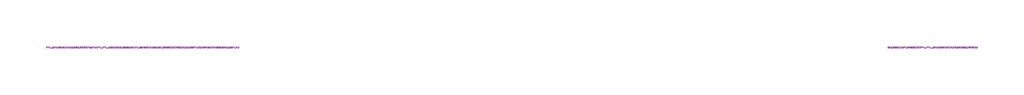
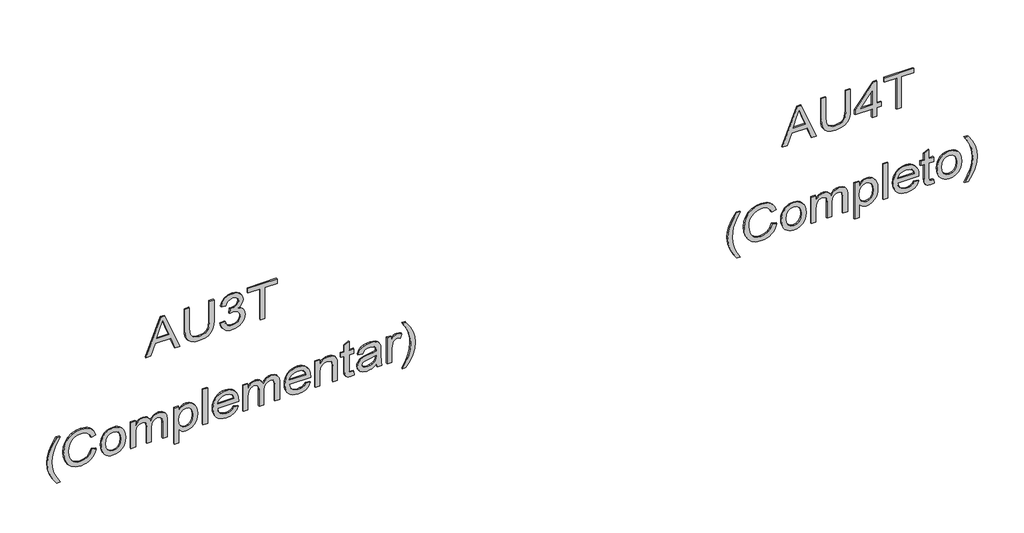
# One storey, part 4 of 14: 2 proxies.
"""IFC4 building model written with IfcOpenShell, lengths in millimetres."""

import ifcopenshell
import ifcopenshell.guid

model = None  # the IFC model being written
_history = None  # IfcOwnerHistory: only IFC2X3 demands one
_inside = {}  # id of a spatial element -> (the spatial element, [elements in it])
_under = {}  # id of a project, library or spatial element -> (it, [spatial elements below it])
_declared = {}  # id of a project -> (the project, [libraries it declares])
_typed = {}  # id of a type object -> (the type object, [elements of that type])
_made_of = {}  # id of a material, layer set ... -> (it, [elements and type objects made of it])


def new_model(schema):
    """Start an empty IFC model of exactly this schema.

    Asked for "IFC4X3", IfcOpenShell would pick the latest addendum, in which some entities
    have other attributes; the version numbers below select the first issue.
    IFC2X3 requires an IfcOwnerHistory on every rooted entity: one is made here for all.
    """
    global model, _history
    if schema == "IFC4X3":
        model = ifcopenshell.file(schema_version=(4, 3, 0, 0))
    else:
        model = ifcopenshell.file(schema=schema)
    _inside.clear()
    _under.clear()
    _declared.clear()
    _typed.clear()
    _made_of.clear()
    _history = None
    if model.schema == "IFC2X3":
        org = make("IfcOrganization", Name="unknown")
        user = make(
            "IfcPersonAndOrganization",
            ThePerson=make("IfcPerson", FamilyName="unknown"),
            TheOrganization=org,
        )
        app = make(
            "IfcApplication",
            ApplicationDeveloper=org,
            Version="unknown",
            ApplicationFullName="unknown",
            ApplicationIdentifier="unknown",
        )
        _history = make(
            "IfcOwnerHistory",
            OwningUser=user,
            OwningApplication=app,
            ChangeAction="ADDED",
            CreationDate=0,
        )
    return model


def make(cls, **values):
    """One entity of the class cls with the attributes given. An attribute that is None is left unset."""
    return model.create_entity(
        cls, **{name: value for name, value in values.items() if value is not None}
    )


def rooted(cls, **values):
    """An entity with a GlobalId (a new one), such as an element, a storey or a relation."""
    return make(cls, GlobalId=ifcopenshell.guid.new(), OwnerHistory=_history, **values)


def si_unit(unit_type, name, prefix=None):
    """IfcSIUnit, for example si_unit("LENGTHUNIT", "METRE", prefix="MILLI")."""
    return make("IfcSIUnit", UnitType=unit_type, Prefix=prefix, Name=name)


def assignment(units):
    """IfcUnitAssignment: the units of a project."""
    return None if units is None else make("IfcUnitAssignment", Units=units)


def point(xyz):
    """IfcCartesianPoint."""
    return None if xyz is None else make("IfcCartesianPoint", Coordinates=xyz)


def direction(xyz):
    """IfcDirection."""
    return None if xyz is None else make("IfcDirection", DirectionRatios=xyz)


def frame(location, z_axis=None, x_axis=None):
    """IfcAxis2Placement3D, a coordinate frame: its origin and axes. An axis left out is left unset."""
    return make(
        "IfcAxis2Placement3D",
        Location=point(location),
        Axis=direction(z_axis),
        RefDirection=direction(x_axis),
    )


def origin():
    """The frame at (0, 0, 0) with its axes left unset."""
    return frame((0.0, 0.0, 0.0))


def place(relative_to, where):
    """IfcLocalPlacement: puts the frame where relative to a parent placement (None: the world)."""
    return make(
        "IfcLocalPlacement", PlacementRelTo=relative_to, RelativePlacement=where
    )


def context(
    kind, dimensions, precision=None, world=None, true_north=None, identifier=None
):
    """IfcGeometricRepresentationContext, for example the 3D "Model" context."""
    return make(
        "IfcGeometricRepresentationContext",
        ContextIdentifier=identifier,
        ContextType=kind,
        CoordinateSpaceDimension=dimensions,
        Precision=precision,
        WorldCoordinateSystem=world,
        TrueNorth=true_north,
    )


def project(units=None, contexts=None):
    """IfcProject with its units and contexts."""
    return rooted(
        "IfcProject",
        Name="project",
        RepresentationContexts=contexts,
        UnitsInContext=assignment(units),
    )


def spatial(cls, under=None, at=None, **own):
    """A site, building, storey or space (cls), placed at a placement, below another one or the project."""
    s = rooted(cls, ObjectPlacement=at, **own)
    if under is not None:
        _under.setdefault(under.id(), (under, []))[1].append(s)
    return s


def polyline(points):
    """IfcPolyline through the points."""
    return make("IfcPolyline", Points=[point(p) for p in points])


def outline(outer, holes=None, kind="AREA"):
    """IfcArbitraryClosedProfileDef: a profile drawn as a closed curve; with holes, ...WithVoids."""
    if holes is None:
        return make("IfcArbitraryClosedProfileDef", ProfileType=kind, OuterCurve=outer)
    return make(
        "IfcArbitraryProfileDefWithVoids",
        ProfileType=kind,
        OuterCurve=outer,
        InnerCurves=holes,
    )


def extrude(swept, where, along, depth):
    """IfcExtrudedAreaSolid: the profile swept, set in the frame where, extruded along a direction by depth."""
    return make(
        "IfcExtrudedAreaSolid",
        SweptArea=swept,
        Position=where,
        ExtrudedDirection=direction(along),
        Depth=depth,
    )


def shape(context_of_items, identifier, shape_type, items):
    """IfcShapeRepresentation: the items that make up one representation, for example the "Body"."""
    return make(
        "IfcShapeRepresentation",
        ContextOfItems=context_of_items,
        RepresentationIdentifier=identifier,
        RepresentationType=shape_type,
        Items=items,
    )


def made_of(thing, what):
    """Note that an element or type object is made of a material, layer set ...; save() writes the relation."""
    if what is not None:
        _made_of.setdefault(what.id(), (what, []))[1].append(thing)
    return thing


def element(
    cls,
    number,
    at=None,
    inside=None,
    cuts=None,
    type_object=None,
    material=None,
    context=None,
    identifier="Body",
    shape_type=None,
    held_by="IfcProductDefinitionShape",
    body=None,
    shapes=None,
    **own,
):
    """One element of the class cls, such as IfcWall. Its Tag is "e" and its number.

    at: its placement. inside: the storey or other place that contains it. cuts: it is an
    opening in that element (IfcRelVoidsElement). A single representation is given by context,
    identifier, shape_type and body (its items); several are given by shapes. held_by: the class
    of the entity that holds the representations. save() writes the other relations.
    """
    e = rooted(cls, Tag="e%d" % number, ObjectPlacement=at, **own)
    if body is not None:
        shapes = [shape(context, identifier, shape_type, body)]
    if shapes is not None:
        e.Representation = make(held_by, Representations=shapes)
    if inside is not None:
        _inside.setdefault(inside.id(), (inside, []))[1].append(e)
    if cuts is not None:
        rooted(
            "IfcRelVoidsElement", RelatingBuildingElement=cuts, RelatedOpeningElement=e
        )
    if type_object is not None:
        _typed.setdefault(type_object.id(), (type_object, []))[1].append(e)
    return made_of(e, material)


def aggregate(whole, parts):
    """IfcRelAggregates: a whole, such as a stair, and the parts it consists of."""
    return rooted("IfcRelAggregates", RelatingObject=whole, RelatedObjects=parts)


def save(model, path):
    """Write the relations noted so far, then the file.

    IfcRelAggregates (storeys below a building ...), IfcRelContainedInSpatialStructure (elements
    in a storey), IfcRelDefinesByType, IfcRelAssociatesMaterial and IfcRelDeclares: one each for
    every whole, place, type object, material and project.
    """
    for whole, parts in _under.values():
        aggregate(whole, parts)
    for where, things in _inside.values():
        rooted(
            "IfcRelContainedInSpatialStructure",
            RelatedElements=things,
            RelatingStructure=where,
        )
    for kind, things in _typed.values():
        rooted("IfcRelDefinesByType", RelatedObjects=things, RelatingType=kind)
    for what, things in _made_of.values():
        rooted("IfcRelAssociatesMaterial", RelatedObjects=things, RelatingMaterial=what)
    for by, libraries in _declared.values():
        rooted("IfcRelDeclares", RelatingContext=by, RelatedDefinitions=libraries)
    model.write(path)


model = new_model("IFC4")

# Units and contexts
model_context = context("Model", 3, world=origin())
ifc_project = project(units=[si_unit("LENGTHUNIT", "METRE", prefix="MILLI")], contexts=[model_context])

# Site, building, storey
site = spatial("IfcSite", under=ifc_project)
building = spatial("IfcBuilding", under=site)
storey = spatial("IfcBuildingStorey", under=building, Name="04 - Marelli - Planta Baixa - Painéis de Vidro", Elevation=36000.0)

# Proxies
placement = place(None, origin())
element("IfcBuildingElementProxy", 1, Name="300mm Arial", ObjectType="300mm Arial", at=placement, inside=storey, context=model_context, shape_type="SweptSolid", body=[
    extrude(outline(polyline([(42065.9244535, 23187.7410315), (42065.9244535, 23227.5458634), (42160.1022443, 23261.9796182), (42160.1022443, 23386.1030033), (42065.9244535, 23420.6103345), (42065.9244535, 23460.4151664), (42367.293384, 23340.1177539), (42367.293384, 23308.038444), (42065.9244535, 23187.7410315)]), holes=[polyline([(42197.7733606, 23275.8119812), (42278.3395176, 23305.3161172), (42329.6222677, 23324.0780989), (42271.8647944, 23345.1945255), (42197.7733606, 23372.3442167), (42197.7733606, 23275.8119812)])]), frame((0.0, 8778.3159498, 0.0), z_axis=(0.0, 1.0, 0.0), x_axis=(0.0, 0.0, 1.0)), (0.0, 0.0, 1.0), 10.0),
    extrude(outline(polyline([(42367.293384, 23698.4348172), (42194.7567282, 23698.4348172), (42147.5942565, 23693.6707454), (42130.8556257, 23687.7156556), (42118.6787316, 23679.3785299), (42110.0197092, 23668.245501), (42103.8346931, 23653.9027017), (42098.8866803, 23615.5877919), (42101.3882779, 23591.4179448), (42108.8930706, 23571.2947997), (42121.0055853, 23555.86215), (42137.3303488, 23545.7637892), (42160.9023876, 23540.190377), (42194.7567282, 23538.3325729), (42367.293384, 23538.3325729), (42367.293384, 23500.6614566), (42193.4323531, 23500.6614566), (42150.6568741, 23503.5217391), (42117.9797559, 23512.1025867), (42093.6167707, 23527.3696895), (42075.783691, 23550.2887378), (42064.8575957, 23580.8689286), (42061.215564, 23619.1194591), (42065.4002217, 23658.2253152), (42077.9541948, 23689.0170382), (42097.176029, 23711.5498104), (42121.3642702, 23725.8788141), (42152.7170132, 23733.5491537), (42193.4323531, 23736.1059335), (42367.293384, 23736.1059335), (42367.293384, 23698.4348172)])), frame((0.0, 8778.3159498, 0.0), z_axis=(0.0, 1.0, 0.0), x_axis=(0.0, 0.0, 1.0)), (0.0, 0.0, 1.0), 10.0),
    extrude(outline(polyline([(42145.9755757, 23787.9037185), (42128.0827151, 23791.1548756), (42111.928097, 23797.229527), (42097.5117213, 23806.1276728), (42084.8335881, 23817.8493129), (42074.5007025, 23831.8288287), (42067.12007, 23847.5006017), (42062.6916905, 23864.8646319), (42061.215564, 23883.9209192), (42062.9446094, 23905.0051561), (42068.1317455, 23924.1856036), (42076.7769724, 23941.4622618), (42088.88029, 23956.8351306), (42103.4668111, 23969.4534831), (42119.5616484, 23978.466592), (42137.1648019, 23983.8744573), (42156.2762716, 23985.6770791), (42183.2420218, 23982.0718355), (42205.2781533, 23971.2561049), (42221.5017493, 23953.7817101), (42231.029893, 23930.2004742), (42241.9008059, 23948.1531156), (42255.9722922, 23961.1025618), (42272.4901938, 23968.9384483), (42290.7003526, 23971.5504105), (42310.2440836, 23968.8004925), (42328.7025627, 23960.5507388), (42344.7238236, 23947.1046519), (42356.9558999, 23928.7657344), (42364.709013, 23907.0147115), (42367.293384, 23883.332308), (42362.0510656, 23850.4436576), (42346.3241103, 23823.4411192), (42321.0690113, 23803.7042502), (42287.2422618, 23792.612608), (42282.5333723, 23830.2837243), (42303.134764, 23836.9607825), (42317.8500438, 23848.7514005), (42326.6792117, 23864.9014201), (42329.6222677, 23884.6566832), (42326.7068029, 23904.3751581), (42317.9604084, 23920.1205075), (42304.7626419, 23930.4395975), (42288.4930606, 23933.8792942), (42268.9585267, 23929.1336164), (42255.2365283, 23914.8965832), (42247.1247303, 23894.7182558), (42244.4207976, 23872.1486954), (42244.862256, 23866.1154306), (42207.1911397, 23861.9215759), (42211.311418, 23888.3355031), (42207.4578541, 23912.0271036), (42195.8971624, 23931.1569674), (42178.4503588, 23943.7937139), (42156.9384591, 23948.0059628), (42134.2769282, 23943.7569257), (42115.5885229, 23931.0098146), (42103.0621409, 23911.0706104), (42098.8866803, 23885.2452944), (42101.9217068, 23863.236754), (42111.0267861, 23846.3601675), (42127.0112588, 23834.0085295), (42150.6844652, 23825.5748348), (42145.9755757, 23787.9037185)])), frame((0.0, 8778.3159498, 0.0), z_axis=(0.0, 1.0, 0.0), x_axis=(0.0, 0.0, 1.0)), (0.0, 0.0, 1.0), 10.0),
    extrude(outline(polyline([(42065.9244535, 24108.1082071), (42065.9244535, 24145.7793234), (42329.6222677, 24145.7793234), (42329.6222677, 24244.6660037), (42367.293384, 24244.6660037), (42367.293384, 24009.2215268), (42329.6222677, 24009.2215268), (42329.6222677, 24108.1082071), (42065.9244535, 24108.1082071)])), frame((0.0, 8778.3159498, 0.0), z_axis=(0.0, 1.0, 0.0), x_axis=(0.0, 0.0, 1.0)), (0.0, 0.0, 1.0), 10.0),
    extrude(outline(polyline([(41249.3155348, 22469.4146478), (41249.3155348, 22497.667985), (41297.5540614, 22468.8260366), (41345.8109821, 22448.2246448), (41394.0862969, 22435.8638098), (41442.3800058, 22431.7435314), (41480.2534572, 22434.1163703), (41517.9429677, 22441.2348869), (41575.7740173, 22462.4248898), (41635.4444769, 22497.667985), (41635.4444769, 22469.4146478), (41584.934279, 22434.7233756), (41534.2033518, 22410.4063757), (41489.4137189, 22398.1559053), (41442.600735, 22394.0724151), (41389.2210575, 22399.5354628), (41337.68079, 22415.9246057), (41290.2791949, 22440.2232114), (41249.3155348, 22469.4146478)])), frame((0.0, 8778.3159498, 0.0), z_axis=(0.0, 1.0, 0.0), x_axis=(0.0, 0.0, 1.0)), (0.0, 0.0, 1.0), 10.0),
    extrude(outline(polyline([(41441.2027835, 22751.94802), (41408.9395325, 22739.761929), (41385.7261786, 22719.9790747), (41371.7098746, 22693.7766796), (41367.0377732, 22662.331966), (41370.4682728, 22635.3570187), (41380.7597717, 22610.3502401), (41397.9858461, 22589.491331), (41422.2200725, 22574.9599922), (41452.3128197, 22566.4343269), (41487.1144565, 22563.5924385), (41515.5333406, 22565.9928685), (41543.1060961, 22573.1941586), (41567.4966724, 22586.3183488), (41586.3690188, 22606.4874792), (41598.4539423, 22633.0669533), (41602.4822501, 22665.4221748), (41598.8494154, 22693.491571), (41587.9509113, 22716.3370429), (41569.1061561, 22734.1793197), (41541.6345681, 22747.2391305), (41550.6108888, 22784.9102468), (41588.4291579, 22768.2727836), (41603.751443, 22756.4706693), (41616.6824952, 22742.3463), (41626.9510013, 22726.16639), (41634.2856486, 22708.1976538), (41640.1533665, 22666.8937028), (41635.6192209, 22629.0386455), (41622.0167841, 22594.4945261), (41599.6771499, 22565.3674691), (41568.9314122, 22543.763599), (41530.9843844, 22530.3818914), (41487.0408801, 22525.9213222), (41445.3782441, 22529.8668566), (41406.4747231, 22541.7034598), (41373.3837376, 22561.0908409), (41349.1587083, 22587.6887092), (41334.3146698, 22622.3891784), (41329.3666569, 22666.0843624), (41331.0014325, 22688.50677), (41335.9057594, 22709.1265558), (41344.0796375, 22727.9437199), (41355.5230668, 22744.9582621), (41370.0796975, 22759.8344903), (41387.5931797, 22772.2367121), (41408.0635135, 22782.1649274), (41431.4906988, 22789.6191364), (41441.2027835, 22751.94802)])), frame((0.0, 8778.3159498, 0.0), z_axis=(0.0, 1.0, 0.0), x_axis=(0.0, 0.0, 1.0)), (0.0, 0.0, 1.0), 10.0),
    extrude(outline(polyline([(41444.7344506, 22827.2902527), (41418.4124939, 22828.9986047), (41395.3646869, 22834.1236607), (41375.5910296, 22842.6654208), (41359.0915221, 22854.6238849), (41346.0868936, 22869.350661), (41336.7978732, 22886.1973571), (41331.224461, 22905.1639733), (41329.3666569, 22926.2505094), (41332.7419742, 22952.8391806), (41342.8679261, 22977.2757421), (41359.1007192, 22997.8495427), (41380.7965599, 23012.849931), (41409.767267, 23022.0101927), (41447.8246594, 23025.0636133), (41472.7049786, 23023.3368672), (41494.7388108, 23018.1566288), (41513.9261561, 23009.5228982), (41530.2670145, 22997.4356754), (41543.3199275, 22982.6261259), (41552.6434368, 22965.825415), (41558.2375424, 22947.0335428), (41560.1022443, 22926.2505094), (41558.5709355, 22907.4241483), (41553.9770091, 22890.0877092), (41546.3204651, 22874.2411923), (41535.6013034, 22859.8845974), (41518.830483, 22845.6245716), (41498.095734, 22835.4388389), (41473.3970566, 22829.3273992), (41444.7344506, 22827.2902527)]), holes=[polyline([(41444.808027, 22864.961369), (41478.8830968, 22869.3207706), (41503.1173232, 22882.3989755), (41517.6026768, 22902.0806623), (41522.431128, 22926.2505094), (41517.5842827, 22950.1720361), (41503.0437468, 22969.8445258), (41479.0854319, 22983.0055042), (41445.9852494, 22987.392497), (41411.1468245, 22983.0330953), (41386.535519, 22969.9548904), (41371.9122097, 22950.3099918), (41367.0377732, 22926.2505094), (41371.8846185, 22902.0806623), (41386.4251544, 22882.3989755), (41410.7145631, 22869.3207706), (41444.808027, 22864.961369)])]), frame((0.0, 8778.3159498, 0.0), z_axis=(0.0, 1.0, 0.0), x_axis=(0.0, 0.0, 1.0)), (0.0, 0.0, 1.0), 10.0),
    extrude(outline(polyline([(41334.0755465, 23067.4436191), (41334.0755465, 23105.1147354), (41445.6909438, 23105.1147354), (41471.6082304, 23106.5494752), (41490.6461236, 23110.8536945), (41504.368122, 23118.3584872), (41514.3377241, 23129.3949471), (41520.407777, 23142.7674576), (41522.431128, 23157.2804023), (41519.3961015, 23174.359324), (41510.2910222, 23185.8648334), (41495.0974958, 23192.4039358), (41473.7971282, 23194.5836366), (41334.0755465, 23194.5836366), (41334.0755465, 23232.2547529), (41459.008272, 23232.2547529), (41487.7214617, 23235.94277), (41507.3479662, 23247.006821), (41518.6603375, 23263.6442842), (41522.431128, 23284.0525379), (41520.9596, 23295.6132296), (41516.5450161, 23305.5736346), (41509.7300021, 23313.3175506), (41501.0571841, 23318.2287752), (41469.6032735, 23321.7236542), (41334.0755465, 23321.7236542), (41334.0755465, 23359.3947705), (41485.7900813, 23359.3947705), (41518.7615051, 23355.0813541), (41541.8920855, 23342.1411049), (41555.5497046, 23321.1994223), (41560.1022443, 23292.8817058), (41557.366122, 23273.3563689), (41549.1577549, 23255.7624124), (41535.4771432, 23240.0998365), (41516.3242869, 23226.368641), (41534.7643719, 23218.1648725), (41548.5875379, 23205.6200965), (41557.2235677, 23188.8262834), (41560.1022443, 23167.8754038), (41557.27875, 23148.3224757), (41548.808267, 23131.0136279), (41535.702471, 23116.4455009), (41518.9730372, 23105.1147354), (41555.3933548, 23105.1147354), (41555.3933548, 23067.4436191), (41334.0755465, 23067.4436191)])), frame((0.0, 8778.3159498, 0.0), z_axis=(0.0, 1.0, 0.0), x_axis=(0.0, 0.0, 1.0)), (0.0, 0.0, 1.0), 10.0),
    extrude(outline(polyline([(41249.3155348, 23415.9014449), (41249.3155348, 23453.5725612), (41363.5061061, 23453.5725612), (41349.9956398, 23464.213548), (41339.0419534, 23477.4481027), (41331.785481, 23492.9083436), (41329.3666569, 23510.2263885), (41332.9810975, 23534.6445559), (41343.8244193, 23557.8671069), (41361.4459669, 23577.806311), (41385.3950848, 23592.374438), (41414.2094421, 23601.2863794), (41446.4267078, 23604.2570265), (41476.7217901, 23601.6266702), (41504.4784866, 23593.7356014), (41527.9861461, 23580.6757906), (41545.5341173, 23562.5392082), (41556.4602125, 23540.2639534), (41560.1022443, 23514.7881252), (41557.4994792, 23495.6582615), (41549.6911838, 23479.6186065), (41536.6773583, 23465.8598199), (41518.4580024, 23453.5725612), (41555.3933548, 23453.5725612), (41555.3933548, 23415.9014449), (41249.3155348, 23415.9014449)]), holes=[polyline([(41442.968617, 23453.5725612), (41477.1356573, 23457.9227658), (41502.0872537, 23470.9733796), (41517.3451594, 23489.670982), (41522.431128, 23510.9621525), (41517.6486621, 23532.1705495), (41503.3012642, 23550.1783732), (41479.3521464, 23562.4840259), (41445.7645202, 23566.5859102), (41410.7237602, 23562.3828584), (41386.2412134, 23549.773703), (41371.8386333, 23531.2784357), (41367.0377732, 23509.4170481), (41371.6730864, 23487.9051484), (41385.5790258, 23469.8697336), (41409.1970499, 23457.6468543), (41442.968617, 23453.5725612)])]), frame((0.0, 8778.3159498, 0.0), z_axis=(0.0, 1.0, 0.0), x_axis=(0.0, 0.0, 1.0)), (0.0, 0.0, 1.0), 10.0),
    extrude(outline(polyline([(23684.3081486, 8778.3159498), (23646.6370323, 8778.3159498), (23646.6370323, 8788.3159498), (23684.3081486, 8788.3159498), (23684.3081486, 8778.3159498)])), frame((0.0, 0.0, 41334.0755465), z_axis=(0.0, 0.0, 1.0), x_axis=(1.0, 0.0, 0.0)), (0.0, 0.0, 1.0), 301.3689304),
    extrude(outline(polyline([(41400.0, 23895.7667195), (41385.1191733, 23885.2085062), (41374.9104479, 23871.4865078), (41369.0059419, 23854.6007242), (41367.0377732, 23834.5511555), (41371.2868103, 23807.8889079), (41384.0339214, 23786.0275203), (41404.7640718, 23770.8799791), (41432.9622268, 23764.3592708), (41432.9622268, 23933.658565), (41443.1157698, 23933.8792942), (41469.3687487, 23932.0927672), (41492.5039277, 23926.7331864), (41512.5213067, 23917.8005517), (41529.4208859, 23905.2948631), (41542.8439802, 23889.9748773), (41552.4319047, 23872.5993508), (41558.1846594, 23853.1682837), (41560.1022443, 23831.6816759), (41558.1800609, 23809.4799975), (41552.4135106, 23789.4488228), (41542.8025935, 23771.588152), (41529.3473095, 23755.8979849), (41512.4109422, 23743.1186841), (41492.3567749, 23733.9906121), (41469.1848077, 23728.5137689), (41442.8950406, 23726.6881545), (41417.467497, 23728.4953748), (41395.0427901, 23733.9170357), (41375.62092, 23742.9531372), (41359.2018867, 23755.6036793), (41346.1489737, 23771.3352331), (41336.8254644, 23789.6143697), (41331.2313588, 23810.4410892), (41329.3666569, 23833.8153915), (41333.6892704, 23869.4723538), (41346.6571107, 23898.1579524), (41367.4608375, 23919.3939406), (41395.2911105, 23932.7020718), (41400.0, 23895.7667195)]), holes=[polyline([(41470.6333431, 23764.3592708), (41491.8693312, 23770.5488853), (41508.3412476, 23785.1446035), (41518.9086579, 23806.1414684), (41522.431128, 23831.5345231), (41518.0165441, 23859.1624609), (41504.7727922, 23881.125016), (41490.535759, 23891.1130122), (41470.6333431, 23896.2081778), (41470.6333431, 23764.3592708)])]), frame((0.0, 8778.3159498, 0.0), z_axis=(0.0, 1.0, 0.0), x_axis=(0.0, 0.0, 1.0)), (0.0, 0.0, 1.0), 10.0),
    extrude(outline(polyline([(41334.0755465, 23971.5504105), (41334.0755465, 24009.2215268), (41445.6909438, 24009.2215268), (41471.6082304, 24010.6562665), (41490.6461236, 24014.9604859), (41504.368122, 24022.4652786), (41514.3377241, 24033.5017384), (41520.407777, 24046.874249), (41522.431128, 24061.3871937), (41519.3961015, 24078.4661153), (41510.2910222, 24089.9716247), (41495.0974958, 24096.5107272), (41473.7971282, 24098.690428), (41334.0755465, 24098.690428), (41334.0755465, 24136.3615443), (41459.008272, 24136.3615443), (41487.7214617, 24140.0495613), (41507.3479662, 24151.1136123), (41518.6603375, 24167.7510755), (41522.431128, 24188.1593292), (41520.9596, 24199.7200209), (41516.5450161, 24209.6804259), (41509.7300021, 24217.4243419), (41501.0571841, 24222.3355666), (41469.6032735, 24225.8304455), (41334.0755465, 24225.8304455), (41334.0755465, 24263.5015618), (41485.7900813, 24263.5015618), (41518.7615051, 24259.1881454), (41541.8920855, 24246.2478963), (41555.5497046, 24225.3062137), (41560.1022443, 24196.9884971), (41557.366122, 24177.4631602), (41549.1577549, 24159.8692038), (41535.4771432, 24144.2066278), (41516.3242869, 24130.4754324), (41534.7643719, 24122.2716639), (41548.5875379, 24109.7268878), (41557.2235677, 24092.9330748), (41560.1022443, 24071.9821951), (41557.27875, 24052.4292671), (41548.808267, 24035.1204192), (41535.702471, 24020.5522922), (41518.9730372, 24009.2215268), (41555.3933548, 24009.2215268), (41555.3933548, 23971.5504105), (41334.0755465, 23971.5504105)])), frame((0.0, 8778.3159498, 0.0), z_axis=(0.0, 1.0, 0.0), x_axis=(0.0, 0.0, 1.0)), (0.0, 0.0, 1.0), 10.0),
    extrude(outline(polyline([(41400.0, 24474.9601327), (41385.1191733, 24464.4019194), (41374.9104479, 24450.679921), (41369.0059419, 24433.7941374), (41367.0377732, 24413.7445687), (41371.2868103, 24387.0823211), (41384.0339214, 24365.2209335), (41404.7640718, 24350.0733923), (41432.9622268, 24343.552684), (41432.9622268, 24512.8519782), (41443.1157698, 24513.0727074), (41469.3687487, 24511.2861804), (41492.5039277, 24505.9265996), (41512.5213067, 24496.9939649), (41529.4208859, 24484.4882763), (41542.8439802, 24469.1682905), (41552.4319047, 24451.792764), (41558.1846594, 24432.3616969), (41560.1022443, 24410.8750891), (41558.1800609, 24388.6734107), (41552.4135106, 24368.6422361), (41542.8025935, 24350.7815652), (41529.3473095, 24335.0913981), (41512.4109422, 24322.3120973), (41492.3567749, 24313.1840253), (41469.1848077, 24307.7071821), (41442.8950406, 24305.8815677), (41417.467497, 24307.688788), (41395.0427901, 24313.1104489), (41375.62092, 24322.1465504), (41359.2018867, 24334.7970925), (41346.1489737, 24350.5286463), (41336.8254644, 24368.8077829), (41331.2313588, 24389.6345024), (41329.3666569, 24413.0088047), (41333.6892704, 24448.6657671), (41346.6571107, 24477.3513656), (41367.4608375, 24498.5873538), (41395.2911105, 24511.895485), (41400.0, 24474.9601327)]), holes=[polyline([(41470.6333431, 24343.552684), (41491.8693312, 24349.7422985), (41508.3412476, 24364.3380167), (41518.9086579, 24385.3348816), (41522.431128, 24410.7279363), (41518.0165441, 24438.3558741), (41504.7727922, 24460.3184292), (41490.535759, 24470.3064254), (41470.6333431, 24475.4015911), (41470.6333431, 24343.552684)])]), frame((0.0, 8778.3159498, 0.0), z_axis=(0.0, 1.0, 0.0), x_axis=(0.0, 0.0, 1.0)), (0.0, 0.0, 1.0), 10.0),
    extrude(outline(polyline([(41334.0755465, 24550.7438237), (41334.0755465, 24588.41494), (41451.5034793, 24588.41494), (41486.2131456, 24592.7099623), (41498.5877762, 24598.0787401), (41507.6422718, 24605.5950291), (41518.7339139, 24624.4029961), (41522.431128, 24646.4667188), (41520.7848561, 24660.3634612), (41515.8460403, 24672.3288231), (41508.1481095, 24681.6638287), (41498.2244927, 24687.6695023), (41464.8943839, 24692.0105098), (41334.0755465, 24692.0105098), (41334.0755465, 24729.6816261), (41469.9711555, 24729.6816261), (41506.391473, 24727.6950633), (41534.0929872, 24716.4010861), (41544.6328064, 24706.3027253), (41552.9285454, 24692.1208744), (41558.3088196, 24675.1155292), (41560.1022443, 24656.5466855), (41557.8765582, 24635.5682147), (41551.1995, 24617.2201002), (41540.0710697, 24601.5023419), (41524.4912672, 24588.41494), (41555.3933548, 24588.41494), (41555.3933548, 24550.7438237), (41334.0755465, 24550.7438237)])), frame((0.0, 8778.3159498, 0.0), z_axis=(0.0, 1.0, 0.0), x_axis=(0.0, 0.0, 1.0)), (0.0, 0.0, 1.0), 10.0),
    extrude(outline(polyline([(41365.4926689, 24861.5305332), (41367.0377732, 24845.1229962), (41369.576159, 24832.2839146), (41376.4555523, 24825.8459797), (41395.8797217, 24823.8594169), (41517.7222385, 24823.8594169), (41517.7222385, 24861.5305332), (41555.3933548, 24861.5305332), (41555.3933548, 24823.8594169), (41631.3241986, 24823.8594169), (41609.1777025, 24786.1883006), (41555.3933548, 24786.1883006), (41555.3933548, 24757.9349633), (41517.7222385, 24757.9349633), (41517.7222385, 24786.1883006), (41394.7760757, 24786.1883006), (41367.7919313, 24787.3287348), (41352.0281878, 24790.7500373), (41342.849532, 24796.967243), (41335.6206508, 24806.4953867), (41330.9301554, 24819.9782618), (41329.3666569, 24838.0596619), (41332.9719005, 24866.2394227), (41365.4926689, 24861.5305332)])), frame((0.0, 8778.3159498, 0.0), z_axis=(0.0, 1.0, 0.0), x_axis=(0.0, 0.0, 1.0)), (0.0, 0.0, 1.0), 10.0),
    extrude(outline(polyline([(41362.3288837, 25040.4683356), (41334.0755465, 25049.8861147), (41334.0755465, 25087.557231), (41365.7501862, 25080.0524383), (41431.1963932, 25078.1394519), (41478.0645594, 25078.1394519), (41511.0267861, 25076.300042), (41525.1442577, 25071.7566993), (41536.5945848, 25064.7485473), (41545.856014, 25054.181137), (41553.406792, 25038.9600195), (41558.4283812, 25018.772495), (41560.1022443, 24993.3058639), (41558.207652, 24966.7539809), (41552.5238752, 24943.6050063), (41543.3452194, 24924.6774777), (41530.9659903, 24910.7899323), (41514.7791825, 24901.0318624), (41494.1777908, 24894.49276), (41489.4689012, 24932.1638763), (41505.1314772, 24939.6502749), (41515.1838527, 24950.3372468), (41520.6193092, 24966.0090198), (41522.431128, 24988.4498215), (41519.7088012, 25012.693245), (41511.5418209, 25030.0940634), (41500.5421493, 25037.8747676), (41483.7299421, 25040.4683356), (41475.3422326, 25040.2476064), (41468.3524747, 25013.429009), (41462.3927864, 24974.9117641), (41456.7274037, 24942.3174193), (41444.3665686, 24915.9402803), (41434.8752131, 24905.3360818), (41422.7351073, 24896.9943575), (41408.5532564, 24891.5864922), (41392.9366657, 24889.7838704), (41367.6079903, 24894.5571393), (41347.2457219, 24908.876946), (41333.8364232, 24932.0994969), (41329.3666569, 24963.5809987), (41331.224461, 24984.4491048), (41336.7978732, 25003.9376535), (41346.896234, 25022.469709), (41362.3288837, 25040.4683356)]), holes=[polyline([(41437.6711163, 25040.4683356), (41427.0025384, 25040.2476064), (41410.0799667, 25038.7576844), (41397.8662844, 25034.2879181), (41386.0112871, 25024.2079515), (41376.0508821, 25009.7134008), (41369.2910505, 24991.8343359), (41367.0377732, 24971.6008261), (41369.0795183, 24952.5169476), (41375.2047535, 24938.6753876), (41384.3834093, 24930.2600869), (41395.5854161, 24927.4549867), (41410.0799667, 24932.6053347), (41420.0127805, 24947.2838263), (41426.1196217, 24979.69423), (41437.6711163, 25040.4683356)])]), frame((0.0, 8778.3159498, 0.0), z_axis=(0.0, 1.0, 0.0), x_axis=(0.0, 0.0, 1.0)), (0.0, 0.0, 1.0), 10.0),
    extrude(outline(polyline([(41334.0755465, 25129.9372369), (41334.0755465, 25167.6083532), (41450.3998333, 25167.6083532), (41473.3556698, 25169.1350635), (41494.39852, 25173.7151943), (41506.1339556, 25179.1690449), (41514.9999117, 25187.2900399), (41520.5733239, 25197.3424154), (41522.431128, 25208.5904074), (41520.4997475, 25221.8341593), (41514.7056061, 25235.0779111), (41548.4771733, 25247.6594753), (41557.1959765, 25228.603188), (41560.1022443, 25209.8412062), (41558.2812284, 25197.5539476), (41552.8181808, 25186.2967585), (41541.6345681, 25175.0763577), (41522.6518572, 25162.8994636), (41555.3933548, 25162.8994636), (41555.3933548, 25129.9372369), (41334.0755465, 25129.9372369)])), frame((0.0, 8778.3159498, 0.0), z_axis=(0.0, 1.0, 0.0), x_axis=(0.0, 0.0, 1.0)), (0.0, 0.0, 1.0), 10.0),
    extrude(outline(polyline([(41249.3155348, 25280.6217021), (41290.2791949, 25309.6751827), (41337.68079, 25334.0013796), (41389.2210575, 25350.4732959), (41442.600735, 25355.9639347), (41489.4137189, 25351.8804446), (41534.2033518, 25339.6299741), (41584.934279, 25315.3129742), (41635.4444769, 25280.6217021), (41635.4444769, 25252.3683649), (41575.1854061, 25287.8321892), (41546.8400984, 25299.8067481), (41517.2807801, 25308.8014629), (41479.9775458, 25315.9199795), (41442.3800058, 25318.2928184), (41394.0862969, 25314.1725401), (41345.8109821, 25301.811705), (41297.5540614, 25281.2103133), (41249.3155348, 25252.3683649), (41249.3155348, 25280.6217021)])), frame((0.0, 8778.3159498, 0.0), z_axis=(0.0, 1.0, 0.0), x_axis=(0.0, 0.0, 1.0)), (0.0, 0.0, 1.0), 10.0),
])
element("IfcBuildingElementProxy", 2, Name="300mm Arial", ObjectType="300mm Arial", at=placement, inside=storey, context=model_context, shape_type="SweptSolid", body=[
    extrude(outline(polyline([(42065.9244535, 28310.1721595), (42065.9244535, 28349.9769914), (42160.1022443, 28384.4107462), (42160.1022443, 28508.5341313), (42065.9244535, 28543.0414625), (42065.9244535, 28582.8462944), (42367.293384, 28462.5488819), (42367.293384, 28430.469572), (42065.9244535, 28310.1721595)]), holes=[polyline([(42197.7733606, 28398.2431092), (42278.3395176, 28427.7472452), (42329.6222677, 28446.5092269), (42271.8647944, 28467.6256535), (42197.7733606, 28494.7753447), (42197.7733606, 28398.2431092)])]), frame((0.0, 8778.3159498, 0.0), z_axis=(0.0, 1.0, 0.0), x_axis=(0.0, 0.0, 1.0)), (0.0, 0.0, 1.0), 10.0),
    extrude(outline(polyline([(42367.293384, 28820.8659452), (42194.7567282, 28820.8659452), (42147.5942565, 28816.1018734), (42130.8556257, 28810.1467836), (42118.6787316, 28801.8096579), (42110.0197092, 28790.676629), (42103.8346931, 28776.3338297), (42098.8866803, 28738.0189199), (42101.3882779, 28713.8490728), (42108.8930706, 28693.7259277), (42121.0055853, 28678.293278), (42137.3303488, 28668.1949172), (42160.9023876, 28662.621505), (42194.7567282, 28660.7637009), (42367.293384, 28660.7637009), (42367.293384, 28623.0925846), (42193.4323531, 28623.0925846), (42150.6568741, 28625.9528671), (42117.9797559, 28634.5337147), (42093.6167707, 28649.8008175), (42075.783691, 28672.7198658), (42064.8575957, 28703.3000566), (42061.215564, 28741.5505871), (42065.4002217, 28780.6564432), (42077.9541948, 28811.4481662), (42097.176029, 28833.9809384), (42121.3642702, 28848.3099421), (42152.7170132, 28855.9802817), (42193.4323531, 28858.5370615), (42367.293384, 28858.5370615), (42367.293384, 28820.8659452)])), frame((0.0, 8778.3159498, 0.0), z_axis=(0.0, 1.0, 0.0), x_axis=(0.0, 0.0, 1.0)), (0.0, 0.0, 1.0), 10.0),
    extrude(outline(polyline([(42065.9244535, 29032.7659745), (42065.9244535, 29070.4370908), (42136.5577966, 29070.4370908), (42136.5577966, 29108.1082071), (42174.2289129, 29108.1082071), (42174.2289129, 29070.4370908), (42362.5844944, 29070.4370908), (42362.5844944, 29042.1837535), (42174.2289129, 28896.2081778), (42136.5577966, 28896.2081778), (42136.5577966, 29032.7659745), (42065.9244535, 29032.7659745)]), holes=[polyline([(42174.2289129, 29032.7659745), (42174.2289129, 28942.5613092), (42290.6267762, 29032.7659745), (42174.2289129, 29032.7659745)])]), frame((0.0, 8778.3159498, 0.0), z_axis=(0.0, 1.0, 0.0), x_axis=(0.0, 0.0, 1.0)), (0.0, 0.0, 1.0), 10.0),
    extrude(outline(polyline([(42065.9244535, 29230.5393351), (42065.9244535, 29268.2104514), (42329.6222677, 29268.2104514), (42329.6222677, 29367.0971317), (42367.293384, 29367.0971317), (42367.293384, 29131.6526548), (42329.6222677, 29131.6526548), (42329.6222677, 29230.5393351), (42065.9244535, 29230.5393351)])), frame((0.0, 8778.3159498, 0.0), z_axis=(0.0, 1.0, 0.0), x_axis=(0.0, 0.0, 1.0)), (0.0, 0.0, 1.0), 10.0),
    extrude(outline(polyline([(41249.3155348, 27945.0124911), (41249.3155348, 27973.2658283), (41297.5540614, 27944.4238799), (41345.8109821, 27923.8224882), (41394.0862969, 27911.4616532), (41442.3800058, 27907.3413748), (41480.2534572, 27909.7142137), (41517.9429677, 27916.8327303), (41575.7740173, 27938.0227332), (41635.4444769, 27973.2658283), (41635.4444769, 27945.0124911), (41584.934279, 27910.321219), (41534.2033518, 27886.0042191), (41489.4137189, 27873.7537486), (41442.600735, 27869.6702585), (41389.2210575, 27875.1333061), (41337.68079, 27891.522449), (41290.2791949, 27915.8210548), (41249.3155348, 27945.0124911)])), frame((0.0, 8778.3159498, 0.0), z_axis=(0.0, 1.0, 0.0), x_axis=(0.0, 0.0, 1.0)), (0.0, 0.0, 1.0), 10.0),
    extrude(outline(polyline([(41441.2027835, 28227.5458634), (41408.9395325, 28215.3597723), (41385.7261786, 28195.576918), (41371.7098746, 28169.3745229), (41367.0377732, 28137.9298094), (41370.4682728, 28110.9548621), (41380.7597717, 28085.9480835), (41397.9858461, 28065.0891743), (41422.2200725, 28050.5578355), (41452.3128197, 28042.0321703), (41487.1144565, 28039.1902819), (41515.5333406, 28041.5907119), (41543.1060961, 28048.792002), (41567.4966724, 28061.9161921), (41586.3690188, 28082.0853225), (41598.4539423, 28108.6647967), (41602.4822501, 28141.0200181), (41598.8494154, 28169.0894144), (41587.9509113, 28191.9348863), (41569.1061561, 28209.777163), (41541.6345681, 28222.8369739), (41550.6108888, 28260.5080902), (41588.4291579, 28243.8706269), (41603.751443, 28232.0685127), (41616.6824952, 28217.9441433), (41626.9510013, 28201.7642333), (41634.2856486, 28183.7954971), (41640.1533665, 28142.4915461), (41635.6192209, 28104.6364888), (41622.0167841, 28070.0923695), (41599.6771499, 28040.9653125), (41568.9314122, 28019.3614423), (41530.9843844, 28005.9797348), (41487.0408801, 28001.5191656), (41445.3782441, 28005.4647), (41406.4747231, 28017.3013032), (41373.3837376, 28036.6886843), (41349.1587083, 28063.2865526), (41334.3146698, 28097.9870218), (41329.3666569, 28141.6822057), (41331.0014325, 28164.1046133), (41335.9057594, 28184.7243992), (41344.0796375, 28203.5415632), (41355.5230668, 28220.5561055), (41370.0796975, 28235.4323337), (41387.5931797, 28247.8345554), (41408.0635135, 28257.7627708), (41431.4906988, 28265.2169797), (41441.2027835, 28227.5458634)])), frame((0.0, 8778.3159498, 0.0), z_axis=(0.0, 1.0, 0.0), x_axis=(0.0, 0.0, 1.0)), (0.0, 0.0, 1.0), 10.0),
    extrude(outline(polyline([(41444.7344506, 28302.888096), (41418.4124939, 28304.596448), (41395.3646869, 28309.7215041), (41375.5910296, 28318.2632642), (41359.0915221, 28330.2217283), (41346.0868936, 28344.9485044), (41336.7978732, 28361.7952005), (41331.224461, 28380.7618166), (41329.3666569, 28401.8483527), (41332.7419742, 28428.4370239), (41342.8679261, 28452.8735855), (41359.1007192, 28473.447386), (41380.7965599, 28488.4477744), (41409.767267, 28497.6080361), (41447.8246594, 28500.6614566), (41472.7049786, 28498.9347105), (41494.7388108, 28493.7544722), (41513.9261561, 28485.1207416), (41530.2670145, 28473.0335188), (41543.3199275, 28458.2239692), (41552.6434368, 28441.4232584), (41558.2375424, 28422.6313862), (41560.1022443, 28401.8483527), (41558.5709355, 28383.0219916), (41553.9770091, 28365.6855526), (41546.3204651, 28349.8390357), (41535.6013034, 28335.4824408), (41518.830483, 28321.222415), (41498.095734, 28311.0366822), (41473.3970566, 28304.9252426), (41444.7344506, 28302.888096)]), holes=[polyline([(41444.808027, 28340.5592123), (41478.8830968, 28344.918614), (41503.1173232, 28357.9968189), (41517.6026768, 28377.6785056), (41522.431128, 28401.8483527), (41517.5842827, 28425.7698795), (41503.0437468, 28445.4423692), (41479.0854319, 28458.6033475), (41445.9852494, 28462.9903403), (41411.1468245, 28458.6309387), (41386.535519, 28445.5527338), (41371.9122097, 28425.9078352), (41367.0377732, 28401.8483527), (41371.8846185, 28377.6785056), (41386.4251544, 28357.9968189), (41410.7145631, 28344.918614), (41444.808027, 28340.5592123)])]), frame((0.0, 8778.3159498, 0.0), z_axis=(0.0, 1.0, 0.0), x_axis=(0.0, 0.0, 1.0)), (0.0, 0.0, 1.0), 10.0),
    extrude(outline(polyline([(41334.0755465, 28543.0414625), (41334.0755465, 28580.7125788), (41445.6909438, 28580.7125788), (41471.6082304, 28582.1473186), (41490.6461236, 28586.4515379), (41504.368122, 28593.9563306), (41514.3377241, 28604.9927905), (41520.407777, 28618.365301), (41522.431128, 28632.8782457), (41519.3961015, 28649.9571673), (41510.2910222, 28661.4626767), (41495.0974958, 28668.0017792), (41473.7971282, 28670.18148), (41334.0755465, 28670.18148), (41334.0755465, 28707.8525963), (41459.008272, 28707.8525963), (41487.7214617, 28711.5406133), (41507.3479662, 28722.6046643), (41518.6603375, 28739.2421276), (41522.431128, 28759.6503812), (41520.9596, 28771.2110729), (41516.5450161, 28781.171478), (41509.7300021, 28788.915394), (41501.0571841, 28793.8266186), (41469.6032735, 28797.3214975), (41334.0755465, 28797.3214975), (41334.0755465, 28834.9926138), (41485.7900813, 28834.9926138), (41518.7615051, 28830.6791975), (41541.8920855, 28817.7389483), (41555.5497046, 28796.7972657), (41560.1022443, 28768.4795491), (41557.366122, 28748.9542122), (41549.1577549, 28731.3602558), (41535.4771432, 28715.6976799), (41516.3242869, 28701.9664844), (41534.7643719, 28693.7627159), (41548.5875379, 28681.2179399), (41557.2235677, 28664.4241268), (41560.1022443, 28643.4732472), (41557.27875, 28623.9203191), (41548.808267, 28606.6114712), (41535.702471, 28592.0433442), (41518.9730372, 28580.7125788), (41555.3933548, 28580.7125788), (41555.3933548, 28543.0414625), (41334.0755465, 28543.0414625)])), frame((0.0, 8778.3159498, 0.0), z_axis=(0.0, 1.0, 0.0), x_axis=(0.0, 0.0, 1.0)), (0.0, 0.0, 1.0), 10.0),
    extrude(outline(polyline([(41249.3155348, 28891.4992883), (41249.3155348, 28929.1704046), (41363.5061061, 28929.1704046), (41349.9956398, 28939.8113913), (41339.0419534, 28953.0459461), (41331.785481, 28968.5061869), (41329.3666569, 28985.8242319), (41332.9810975, 29010.2423993), (41343.8244193, 29033.4649502), (41361.4459669, 29053.4041544), (41385.3950848, 29067.9722814), (41414.2094421, 29076.8842227), (41446.4267078, 29079.8548698), (41476.7217901, 29077.2245136), (41504.4784866, 29069.3334448), (41527.9861461, 29056.2736339), (41545.5341173, 29038.1370516), (41556.4602125, 29015.8617968), (41560.1022443, 28990.3859686), (41557.4994792, 28971.2561049), (41549.6911838, 28955.2164499), (41536.6773583, 28941.4576633), (41518.4580024, 28929.1704046), (41555.3933548, 28929.1704046), (41555.3933548, 28891.4992883), (41249.3155348, 28891.4992883)]), holes=[polyline([(41442.968617, 28929.1704046), (41477.1356573, 28933.5206092), (41502.0872537, 28946.571223), (41517.3451594, 28965.2688254), (41522.431128, 28986.5599959), (41517.6486621, 29007.7683929), (41503.3012642, 29025.7762165), (41479.3521464, 29038.0818693), (41445.7645202, 29042.1837535), (41410.7237602, 29037.9807017), (41386.2412134, 29025.3715464), (41371.8386333, 29006.876279), (41367.0377732, 28985.0148915), (41371.6730864, 28963.5029918), (41385.5790258, 28945.467577), (41409.1970499, 28933.2446977), (41442.968617, 28929.1704046)])]), frame((0.0, 8778.3159498, 0.0), z_axis=(0.0, 1.0, 0.0), x_axis=(0.0, 0.0, 1.0)), (0.0, 0.0, 1.0), 10.0),
    extrude(outline(polyline([(29159.905992, 8778.3159498), (29122.2348757, 8778.3159498), (29122.2348757, 8788.3159498), (29159.905992, 8788.3159498), (29159.905992, 8778.3159498)])), frame((0.0, 0.0, 41334.0755465), z_axis=(0.0, 0.0, 1.0), x_axis=(1.0, 0.0, 0.0)), (0.0, 0.0, 1.0), 301.3689304),
    extrude(outline(polyline([(41400.0, 29371.3645628), (41385.1191733, 29360.8063496), (41374.9104479, 29347.0843511), (41369.0059419, 29330.1985676), (41367.0377732, 29310.1489988), (41371.2868103, 29283.4867512), (41384.0339214, 29261.6253637), (41404.7640718, 29246.4778225), (41432.9622268, 29239.9571141), (41432.9622268, 29409.2564083), (41443.1157698, 29409.4771375), (41469.3687487, 29407.6906106), (41492.5039277, 29402.3310298), (41512.5213067, 29393.3983951), (41529.4208859, 29380.8927065), (41542.8439802, 29365.5727207), (41552.4319047, 29348.1971942), (41558.1846594, 29328.766127), (41560.1022443, 29307.2795193), (41558.1800609, 29285.0778408), (41552.4135106, 29265.0466662), (41542.8025935, 29247.1859953), (41529.3473095, 29231.4958282), (41512.4109422, 29218.7165274), (41492.3567749, 29209.5884554), (41469.1848077, 29204.1116122), (41442.8950406, 29202.2859978), (41417.467497, 29204.0932181), (41395.0427901, 29209.514879), (41375.62092, 29218.5509805), (41359.2018867, 29231.2015227), (41346.1489737, 29246.9330765), (41336.8254644, 29265.2122131), (41331.2313588, 29286.0389326), (41329.3666569, 29309.4132348), (41333.6892704, 29345.0701972), (41346.6571107, 29373.7557958), (41367.4608375, 29394.991784), (41395.2911105, 29408.2999151), (41400.0, 29371.3645628)]), holes=[polyline([(41470.6333431, 29239.9571141), (41491.8693312, 29246.1467287), (41508.3412476, 29260.7424469), (41518.9086579, 29281.7393117), (41522.431128, 29307.1323665), (41518.0165441, 29334.7603043), (41504.7727922, 29356.7228594), (41490.535759, 29366.7108556), (41470.6333431, 29371.8060212), (41470.6333431, 29239.9571141)])]), frame((0.0, 8778.3159498, 0.0), z_axis=(0.0, 1.0, 0.0), x_axis=(0.0, 0.0, 1.0)), (0.0, 0.0, 1.0), 10.0),
    extrude(outline(polyline([(41365.4926689, 29527.199376), (41367.0377732, 29510.791839), (41369.576159, 29497.9527574), (41376.4555523, 29491.5148224), (41395.8797217, 29489.5282597), (41517.7222385, 29489.5282597), (41517.7222385, 29527.199376), (41555.3933548, 29527.199376), (41555.3933548, 29489.5282597), (41631.3241986, 29489.5282597), (41609.1777025, 29451.8571434), (41555.3933548, 29451.8571434), (41555.3933548, 29423.6038061), (41517.7222385, 29423.6038061), (41517.7222385, 29451.8571434), (41394.7760757, 29451.8571434), (41367.7919313, 29452.9975775), (41352.0281878, 29456.4188801), (41342.849532, 29462.6360858), (41335.6206508, 29472.1642295), (41330.9301554, 29485.6471046), (41329.3666569, 29503.7285047), (41332.9719005, 29531.9082655), (41365.4926689, 29527.199376)])), frame((0.0, 8778.3159498, 0.0), z_axis=(0.0, 1.0, 0.0), x_axis=(0.0, 0.0, 1.0)), (0.0, 0.0, 1.0), 10.0),
    extrude(outline(polyline([(41444.7344506, 29555.4527132), (41418.4124939, 29557.1610652), (41395.3646869, 29562.2861213), (41375.5910296, 29570.8278813), (41359.0915221, 29582.7863454), (41346.0868936, 29597.5131216), (41336.7978732, 29614.3598177), (41331.224461, 29633.3264338), (41329.3666569, 29654.4129699), (41332.7419742, 29681.0016411), (41342.8679261, 29705.4382026), (41359.1007192, 29726.0120032), (41380.7965599, 29741.0123916), (41409.767267, 29750.1726532), (41447.8246594, 29753.2260738), (41472.7049786, 29751.4993277), (41494.7388108, 29746.3190893), (41513.9261561, 29737.6853588), (41530.2670145, 29725.598136), (41543.3199275, 29710.7885864), (41552.6434368, 29693.9878755), (41558.2375424, 29675.1960034), (41560.1022443, 29654.4129699), (41558.5709355, 29635.5866088), (41553.9770091, 29618.2501698), (41546.3204651, 29602.4036528), (41535.6013034, 29588.047058), (41518.830483, 29573.7870321), (41498.095734, 29563.6012994), (41473.3970566, 29557.4898597), (41444.7344506, 29555.4527132)]), holes=[polyline([(41444.808027, 29593.1238295), (41478.8830968, 29597.4832312), (41503.1173232, 29610.5614361), (41517.6026768, 29630.2431228), (41522.431128, 29654.4129699), (41517.5842827, 29678.3344966), (41503.0437468, 29698.0069863), (41479.0854319, 29711.1679647), (41445.9852494, 29715.5549575), (41411.1468245, 29711.1955559), (41386.535519, 29698.1173509), (41371.9122097, 29678.4724524), (41367.0377732, 29654.4129699), (41371.8846185, 29630.2431228), (41386.4251544, 29610.5614361), (41410.7145631, 29597.4832312), (41444.808027, 29593.1238295)])]), frame((0.0, 8778.3159498, 0.0), z_axis=(0.0, 1.0, 0.0), x_axis=(0.0, 0.0, 1.0)), (0.0, 0.0, 1.0), 10.0),
    extrude(outline(polyline([(41249.3155348, 29805.0238587), (41290.2791949, 29834.0773393), (41337.68079, 29858.4035362), (41389.2210575, 29874.8754526), (41442.600735, 29880.3660913), (41489.4137189, 29876.2826012), (41534.2033518, 29864.0321308), (41584.934279, 29839.7151309), (41635.4444769, 29805.0238587), (41635.4444769, 29776.7705215), (41575.1854061, 29812.2343458), (41546.8400984, 29824.2089048), (41517.2807801, 29833.2036196), (41479.9775458, 29840.3221362), (41442.3800058, 29842.694975), (41394.0862969, 29838.5746967), (41345.8109821, 29826.2138617), (41297.5540614, 29805.6124699), (41249.3155348, 29776.7705215), (41249.3155348, 29805.0238587)])), frame((0.0, 8778.3159498, 0.0), z_axis=(0.0, 1.0, 0.0), x_axis=(0.0, 0.0, 1.0)), (0.0, 0.0, 1.0), 10.0),
])

save(model, "model.ifc")
